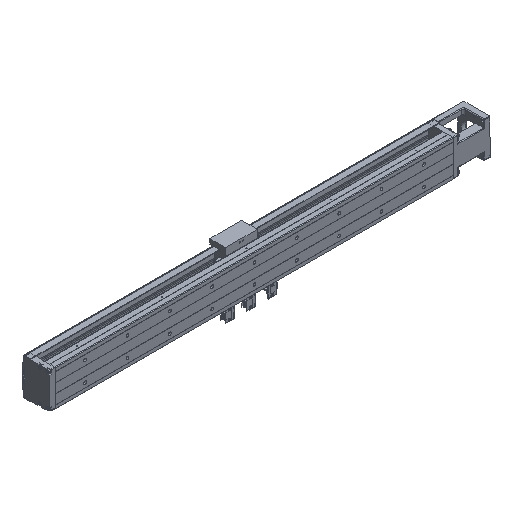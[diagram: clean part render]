
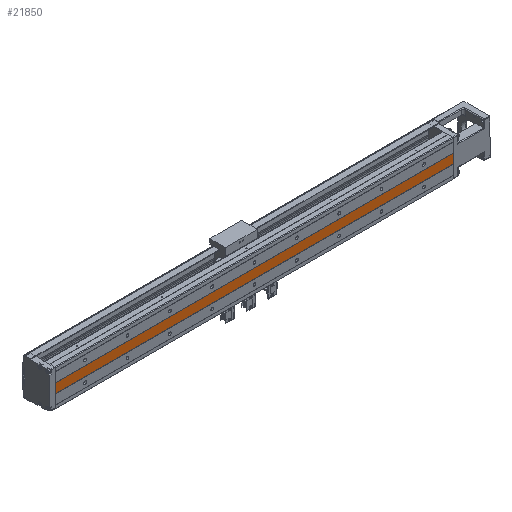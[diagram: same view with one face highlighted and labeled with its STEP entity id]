
A CAD part, isometric view. The second image highlights one B-rep face of the part: STEP entity #21850.
In plain terms, the highlighted planar face has unit normal (0, -1, 0).
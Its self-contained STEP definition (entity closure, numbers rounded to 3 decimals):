
#816 = VECTOR ( 'NONE', #36610, 1000. ) ;
#2434 = LINE ( 'NONE', #30947, #27344 ) ;
#3208 = VERTEX_POINT ( 'NONE', #27925 ) ;
#8434 = CARTESIAN_POINT ( 'NONE',  ( -520., -31.5, -5.5 ) ) ;
#8952 = LINE ( 'NONE', #8434, #816 ) ;
#9050 = VECTOR ( 'NONE', #16617, 1000. ) ;
#9434 = DIRECTION ( 'NONE',  ( 0., 0., -1. ) ) ;
#9855 = DIRECTION ( 'NONE',  ( 0., -1., 0. ) ) ;
#12864 = CARTESIAN_POINT ( 'NONE',  ( -320., -31.5, 11. ) ) ;
#13344 = DIRECTION ( 'NONE',  ( -1., 0., 0. ) ) ;
#13550 = EDGE_CURVE ( 'NONE', #38004, #34615, #41611, .T. ) ;
#14240 = CARTESIAN_POINT ( 'NONE',  ( -520., -31.5, -11. ) ) ;
#15977 = FACE_OUTER_BOUND ( 'NONE', #16140, .T. ) ;
#16140 = EDGE_LOOP ( 'NONE', ( #23810, #29043, #41224, #24487 ) ) ;
#16617 = DIRECTION ( 'NONE',  ( 1., 0., 0. ) ) ;
#17256 = DIRECTION ( 'NONE',  ( 1., 0., 0. ) ) ;
#20739 = EDGE_CURVE ( 'NONE', #3208, #38004, #24194, .T. ) ;
#21850 = ADVANCED_FACE ( 'NONE', ( #15977 ), #27671, .T. ) ;
#21921 = EDGE_CURVE ( 'NONE', #38949, #34615, #2434, .T. ) ;
#22351 = AXIS2_PLACEMENT_3D ( 'NONE', #41399, #9855, #13344 ) ;
#23810 = ORIENTED_EDGE ( 'NONE', *, *, #43380, .T. ) ;
#24194 = LINE ( 'NONE', #12864, #9050 ) ;
#24487 = ORIENTED_EDGE ( 'NONE', *, *, #20739, .F. ) ;
#24946 = CARTESIAN_POINT ( 'NONE',  ( 420., -31.5, -11. ) ) ;
#25473 = CARTESIAN_POINT ( 'NONE',  ( 420., -31.5, 11. ) ) ;
#27344 = VECTOR ( 'NONE', #17256, 1000. ) ;
#27671 = PLANE ( 'NONE',  #22351 ) ;
#27925 = CARTESIAN_POINT ( 'NONE',  ( -520., -31.5, 11. ) ) ;
#29043 = ORIENTED_EDGE ( 'NONE', *, *, #21921, .T. ) ;
#30947 = CARTESIAN_POINT ( 'NONE',  ( -320., -31.5, -11. ) ) ;
#33244 = CARTESIAN_POINT ( 'NONE',  ( 420., -31.5, 11. ) ) ;
#34615 = VERTEX_POINT ( 'NONE', #24946 ) ;
#36610 = DIRECTION ( 'NONE',  ( 0., 0., -1. ) ) ;
#38004 = VERTEX_POINT ( 'NONE', #25473 ) ;
#38949 = VERTEX_POINT ( 'NONE', #14240 ) ;
#39946 = VECTOR ( 'NONE', #9434, 1000. ) ;
#41224 = ORIENTED_EDGE ( 'NONE', *, *, #13550, .F. ) ;
#41399 = CARTESIAN_POINT ( 'NONE',  ( 420., -31.5, -11. ) ) ;
#41611 = LINE ( 'NONE', #33244, #39946 ) ;
#43380 = EDGE_CURVE ( 'NONE', #3208, #38949, #8952, .T. ) ;
